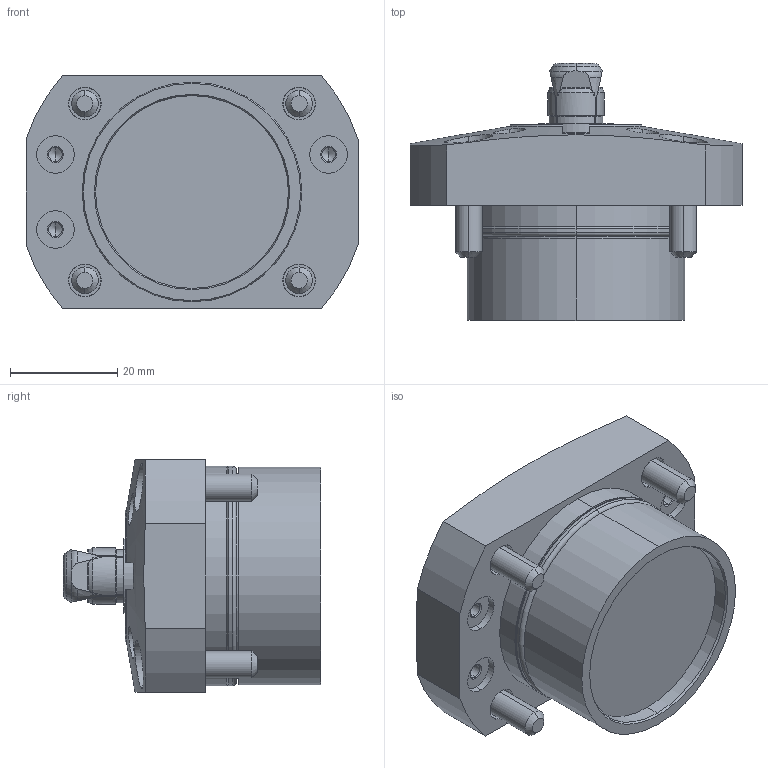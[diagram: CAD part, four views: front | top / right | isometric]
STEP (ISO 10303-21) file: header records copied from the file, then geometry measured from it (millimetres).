
FILE_DESCRIPTION (( 'STEP AP203' ), '1' );
FILE_NAME ('SFH2110.STEP', '2010-11-03T23:11:50', ( ' ' ), ( ' ' ), 'SwSTEP 2.0', 'SolidWorks 2010', '' );
FILE_SCHEMA (( 'CONFIG_CONTROL_DESIGN' ));
Length unit declared in the file: millimetre
Products named in the file (7): SFH2_钾堇轤O剌皋晅; φ11_ｽﾘｰﾌﾞ; SFH2110; SFH2110_套菁轤礁诎蔬晅; 冇11_郫霓; 6妏寠晅无倌_M3_10; 6妏寠晅无倌_M5_16
Assembly tree (12 placements, depth 2):
  SFH2110
    6妏寠晅无倌_M5_16  x4
    6妏寠晅无倌_M3_10  x4
    φ11_ｽﾘｰﾌﾞ
    冇11_郫霓
    SFH2110_套菁轤礁诎蔬晅
    SFH2_钾堇轤O剌皋晅
Bounding box: 62 x 48 x 43.5 mm (x, y, z)
Volume: 58834.4 mm3; surface area: 21380.7 mm2
Topology: 16 solids, 16 shells, 488 faces, 1003 edges, 558 vertices
Faces by surface type: plane 191, cone 156, cylinder 122, torus 19
Entity records: 9985 total; most frequent: CARTESIAN_POINT 2374, DIRECTION 1486, ORIENTED_EDGE 1334, EDGE_CURVE 667, AXIS2_PLACEMENT_3D 616, VERTEX_POINT 408, EDGE_LOOP 343, ADVANCED_FACE 302
